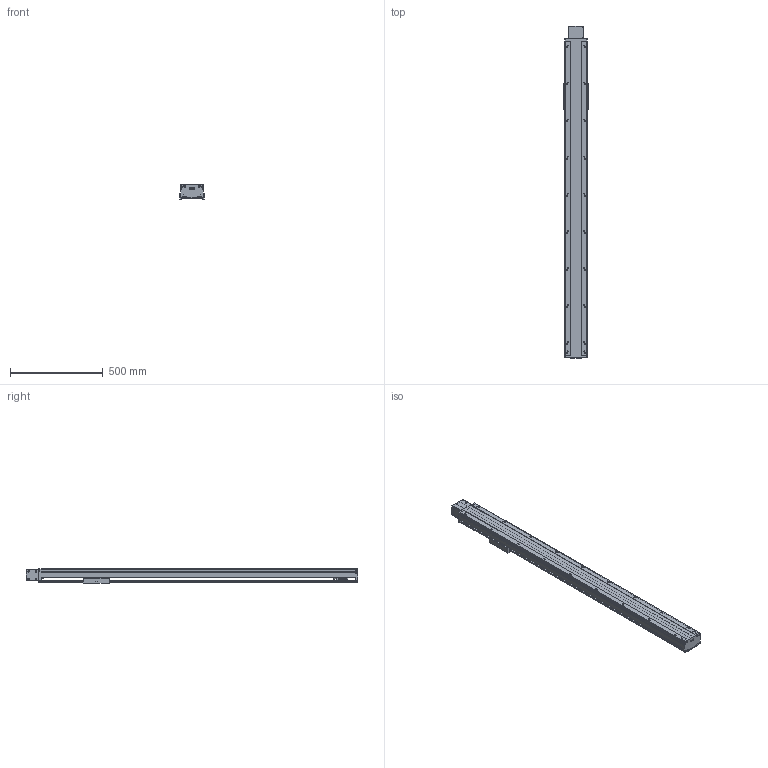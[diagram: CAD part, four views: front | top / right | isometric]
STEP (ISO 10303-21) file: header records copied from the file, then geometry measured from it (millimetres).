
FILE_DESCRIPTION(/* description */ (''),/* implementation_level */ '2;1');
FILE_NAME(/* name */ 'TKB120-FR-1400_asm1_stp.stp',/* time_stamp */ '2016-06-28T16:09:59+08:00',/* author */ (''),/* organization */ (''),/* preprocessor_version */ 'ST-DEVELOPER v15',/* originating_system */ 'SIEMENS PLM Software NX 8.5',/* authorisation */ '');
FILE_SCHEMA (('AUTOMOTIVE_DESIGN { 1 0 10303 214 3 1 1 1 }'));
Length unit declared in the file: millimetre
Products named in the file (3): 200-2; 200-1; TKB120-FR-1400_asm1_stp
Assembly tree (2 placements, depth 2):
  TKB120-FR-1400_asm1_stp
    200-1
    200-2
Bounding box: 134 x 1791 x 80 mm (x, y, z)
Volume: 4496407.8 mm3; surface area: 1835969 mm2
Topology: 2 solids, 3 shells, 831 faces, 2407 edges, 1576 vertices
Faces by surface type: cylinder 413, plane 376, cone 42
Full cylindrical faces by diameter (mm): 2.5 x4, 3.3 x20, 4.2 x4, 4.5 x24, 5 x30, 5.5 x20, 6.6 x6, 6.8 x4, 7.5 x4, 8 x12, 9 x6, 9.75 x40, 10.5 x4, 11 x2, 12 x4, 14 x2, 17 x2, 35 x2, 40 x3, 50 x2, 52 x1
Entity records: 27219 total; most frequent: CARTESIAN_POINT 5895, DIRECTION 4474, ORIENTED_EDGE 4116, EDGE_CURVE 2058, AXIS2_PLACEMENT_3D 1706, VERTEX_POINT 1507, EDGE_LOOP 1263, LINE 1062
